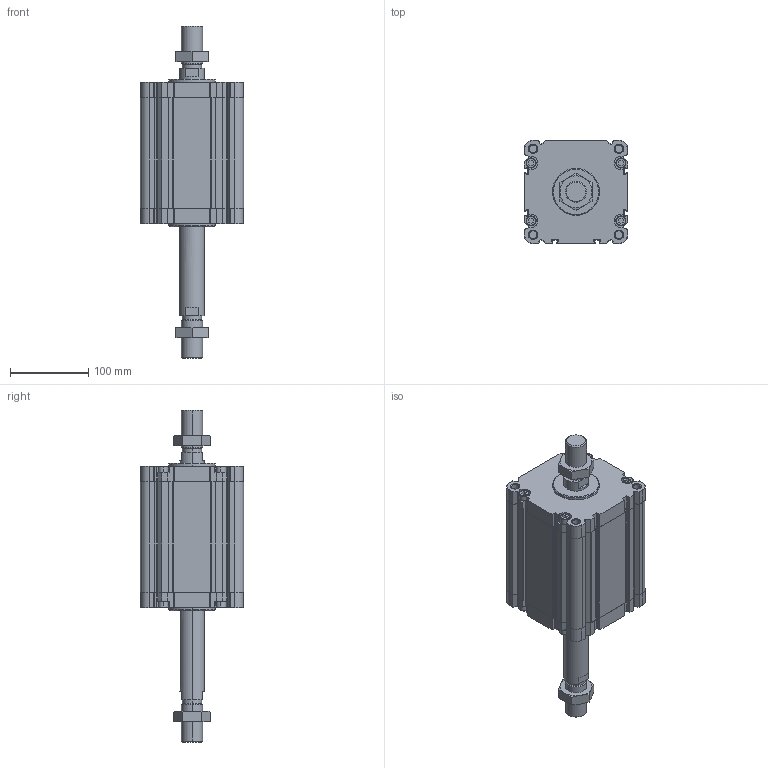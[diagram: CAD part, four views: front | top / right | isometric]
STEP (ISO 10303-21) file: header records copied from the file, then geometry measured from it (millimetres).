
FILE_DESCRIPTION (( 'STEP AP203' ), '1' );
FILE_NAME ('CDVU125-100M-P.STEP', '2020-07-21T16:44:53', ( '' ), ( '' ), 'SwSTEP 2.0', 'SolidWorks 2019', '' );
FILE_SCHEMA (( 'CONFIG_CONTROL_DESIGN' ));
Length unit declared in the file: millimetre
Products named in the file (1): CDVU125-100M-P
Bounding box: 132 x 132 x 425 mm (x, y, z)
Volume: 2095714.3 mm3; surface area: 303986.5 mm2
Topology: 4 solids, 4 shells, 702 faces, 1892 edges, 1230 vertices
Faces by surface type: plane 338, cylinder 280, cone 68, torus 16
Entity records: 22967 total; most frequent: CARTESIAN_POINT 4709, DIRECTION 3930, ORIENTED_EDGE 3776, EDGE_CURVE 1888, AXIS2_PLACEMENT_3D 1363, VERTEX_POINT 1230, LINE 1204, VECTOR 1204
